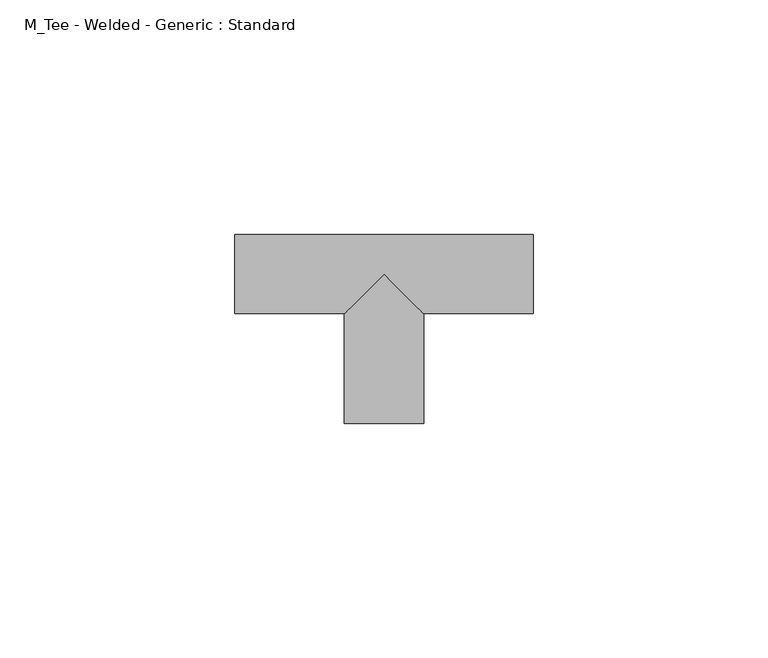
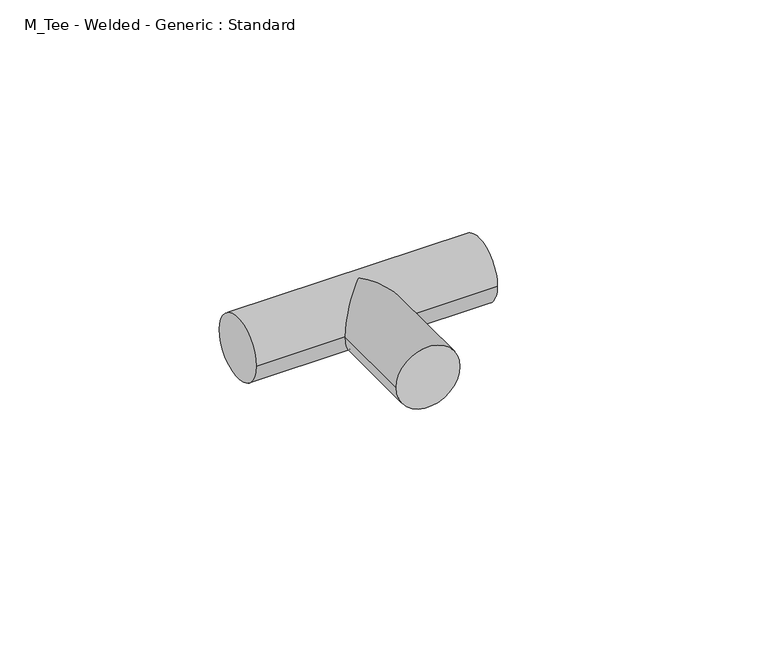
"""IFC4 building model written with IfcOpenShell, lengths in millimetres: pipe fitting geometry, M_Tee - Welded - Generic : Standard."""

import ifcopenshell
import ifcopenshell.guid

model = None  # the IFC model being written
_history = None  # IfcOwnerHistory: only IFC2X3 demands one
_inside = {}  # id of a spatial element -> (the spatial element, [elements in it])
_under = {}  # id of a project, library or spatial element -> (it, [spatial elements below it])
_declared = {}  # id of a project -> (the project, [libraries it declares])
_typed = {}  # id of a type object -> (the type object, [elements of that type])
_made_of = {}  # id of a material, layer set ... -> (it, [elements and type objects made of it])


def new_model(schema):
    """Start an empty IFC model of exactly this schema.

    Asked for "IFC4X3", IfcOpenShell would pick the latest addendum, in which some entities
    have other attributes; the version numbers below select the first issue.
    IFC2X3 requires an IfcOwnerHistory on every rooted entity: one is made here for all.
    """
    global model, _history
    if schema == "IFC4X3":
        model = ifcopenshell.file(schema_version=(4, 3, 0, 0))
    else:
        model = ifcopenshell.file(schema=schema)
    _inside.clear()
    _under.clear()
    _declared.clear()
    _typed.clear()
    _made_of.clear()
    _history = None
    if model.schema == "IFC2X3":
        org = make("IfcOrganization", Name="unknown")
        user = make(
            "IfcPersonAndOrganization",
            ThePerson=make("IfcPerson", FamilyName="unknown"),
            TheOrganization=org,
        )
        app = make(
            "IfcApplication",
            ApplicationDeveloper=org,
            Version="unknown",
            ApplicationFullName="unknown",
            ApplicationIdentifier="unknown",
        )
        _history = make(
            "IfcOwnerHistory",
            OwningUser=user,
            OwningApplication=app,
            ChangeAction="ADDED",
            CreationDate=0,
        )
    return model


def make(cls, **values):
    """One entity of the class cls with the attributes given. An attribute that is None is left unset."""
    return model.create_entity(
        cls, **{name: value for name, value in values.items() if value is not None}
    )


def rooted(cls, **values):
    """An entity with a GlobalId (a new one), such as an element, a storey or a relation."""
    return make(cls, GlobalId=ifcopenshell.guid.new(), OwnerHistory=_history, **values)


def si_unit(unit_type, name, prefix=None):
    """IfcSIUnit, for example si_unit("LENGTHUNIT", "METRE", prefix="MILLI")."""
    return make("IfcSIUnit", UnitType=unit_type, Prefix=prefix, Name=name)


def assignment(units):
    """IfcUnitAssignment: the units of a project."""
    return None if units is None else make("IfcUnitAssignment", Units=units)


def point(xyz):
    """IfcCartesianPoint."""
    return None if xyz is None else make("IfcCartesianPoint", Coordinates=xyz)


def direction(xyz):
    """IfcDirection."""
    return None if xyz is None else make("IfcDirection", DirectionRatios=xyz)


def frame(location, z_axis=None, x_axis=None):
    """IfcAxis2Placement3D, a coordinate frame: its origin and axes. An axis left out is left unset."""
    return make(
        "IfcAxis2Placement3D",
        Location=point(location),
        Axis=direction(z_axis),
        RefDirection=direction(x_axis),
    )


def origin():
    """The frame at (0, 0, 0) with its axes left unset."""
    return frame((0.0, 0.0, 0.0))


def place(relative_to, where):
    """IfcLocalPlacement: puts the frame where relative to a parent placement (None: the world)."""
    return make(
        "IfcLocalPlacement", PlacementRelTo=relative_to, RelativePlacement=where
    )


def context(
    kind, dimensions, precision=None, world=None, true_north=None, identifier=None
):
    """IfcGeometricRepresentationContext, for example the 3D "Model" context."""
    return make(
        "IfcGeometricRepresentationContext",
        ContextIdentifier=identifier,
        ContextType=kind,
        CoordinateSpaceDimension=dimensions,
        Precision=precision,
        WorldCoordinateSystem=world,
        TrueNorth=true_north,
    )


def project(units=None, contexts=None):
    """IfcProject with its units and contexts."""
    return rooted(
        "IfcProject",
        Name="project",
        RepresentationContexts=contexts,
        UnitsInContext=assignment(units),
    )


def spatial(cls, under=None, at=None, **own):
    """A site, building, storey or space (cls), placed at a placement, below another one or the project."""
    s = rooted(cls, ObjectPlacement=at, **own)
    if under is not None:
        _under.setdefault(under.id(), (under, []))[1].append(s)
    return s


def circle_curve(where, radius):
    """IfcCircle in the frame where."""
    return make("IfcCircle", Position=where, Radius=radius)


def ellipse_curve(where, semi_axis1, semi_axis2):
    """IfcEllipse in the frame where."""
    return make(
        "IfcEllipse", Position=where, SemiAxis1=semi_axis1, SemiAxis2=semi_axis2
    )


def shape(context_of_items, identifier, shape_type, items):
    """IfcShapeRepresentation: the items that make up one representation, for example the "Body"."""
    return make(
        "IfcShapeRepresentation",
        ContextOfItems=context_of_items,
        RepresentationIdentifier=identifier,
        RepresentationType=shape_type,
        Items=items,
    )


def source(mapping_origin, context_of_items, identifier, shape_type, items):
    """IfcRepresentationMap: a shape defined once, which mapped items show again and again."""
    return make(
        "IfcRepresentationMap",
        MappingOrigin=mapping_origin,
        MappedRepresentation=shape(context_of_items, identifier, shape_type, items),
    )


def transform(
    local_origin,
    x_axis=None,
    y_axis=None,
    z_axis=None,
    scale=None,
    scale2=None,
    scale3=None,
    uniform=True,
):
    """IfcCartesianTransformationOperator3D, or its non-uniform kind. x_axis, y_axis, z_axis: its Axis1, 2, 3."""
    if uniform:
        return make(
            "IfcCartesianTransformationOperator3D",
            Axis1=direction(x_axis),
            Axis2=direction(y_axis),
            LocalOrigin=point(local_origin),
            Scale=scale,
            Axis3=direction(z_axis),
        )
    return make(
        "IfcCartesianTransformationOperator3DnonUniform",
        Axis1=direction(x_axis),
        Axis2=direction(y_axis),
        LocalOrigin=point(local_origin),
        Scale=scale,
        Axis3=direction(z_axis),
        Scale2=scale2,
        Scale3=scale3,
    )


def mapped(mapping_source, mapping_target):
    """IfcMappedItem: shows the shape of a source again, moved by a transform."""
    return make(
        "IfcMappedItem", MappingSource=mapping_source, MappingTarget=mapping_target
    )


def made_of(thing, what):
    """Note that an element or type object is made of a material, layer set ...; save() writes the relation."""
    if what is not None:
        _made_of.setdefault(what.id(), (what, []))[1].append(thing)
    return thing


def element(
    cls,
    number,
    at=None,
    inside=None,
    cuts=None,
    type_object=None,
    material=None,
    context=None,
    identifier="Body",
    shape_type=None,
    held_by="IfcProductDefinitionShape",
    body=None,
    shapes=None,
    **own,
):
    """One element of the class cls, such as IfcWall. Its Tag is "e" and its number.

    at: its placement. inside: the storey or other place that contains it. cuts: it is an
    opening in that element (IfcRelVoidsElement). A single representation is given by context,
    identifier, shape_type and body (its items); several are given by shapes. held_by: the class
    of the entity that holds the representations. save() writes the other relations.
    """
    e = rooted(cls, Tag="e%d" % number, ObjectPlacement=at, **own)
    if body is not None:
        shapes = [shape(context, identifier, shape_type, body)]
    if shapes is not None:
        e.Representation = make(held_by, Representations=shapes)
    if inside is not None:
        _inside.setdefault(inside.id(), (inside, []))[1].append(e)
    if cuts is not None:
        rooted(
            "IfcRelVoidsElement", RelatingBuildingElement=cuts, RelatedOpeningElement=e
        )
    if type_object is not None:
        _typed.setdefault(type_object.id(), (type_object, []))[1].append(e)
    return made_of(e, material)


def aggregate(whole, parts):
    """IfcRelAggregates: a whole, such as a stair, and the parts it consists of."""
    return rooted("IfcRelAggregates", RelatingObject=whole, RelatedObjects=parts)


def save(model, path):
    """Write the relations noted so far, then the file.

    IfcRelAggregates (storeys below a building ...), IfcRelContainedInSpatialStructure (elements
    in a storey), IfcRelDefinesByType, IfcRelAssociatesMaterial and IfcRelDeclares: one each for
    every whole, place, type object, material and project.
    """
    for whole, parts in _under.values():
        aggregate(whole, parts)
    for where, things in _inside.values():
        rooted(
            "IfcRelContainedInSpatialStructure",
            RelatedElements=things,
            RelatingStructure=where,
        )
    for kind, things in _typed.values():
        rooted("IfcRelDefinesByType", RelatedObjects=things, RelatingType=kind)
    for what, things in _made_of.values():
        rooted("IfcRelAssociatesMaterial", RelatedObjects=things, RelatingMaterial=what)
    for by, libraries in _declared.values():
        rooted("IfcRelDeclares", RelatingContext=by, RelatedDefinitions=libraries)
    model.write(path)


def plane_surface(at):
    """IfcPlane: the flat surface through the origin of the frame at, square to its z axis."""
    return make("IfcPlane", Position=at)


def cylinder_surface(at, radius):
    """IfcCylindricalSurface: all points at the distance radius from the z axis of the frame at."""
    return make("IfcCylindricalSurface", Position=at, Radius=radius)


def advanced_brep(points, edges, surfaces, faces):
    """IfcAdvancedBrep: a solid bounded by faces that lie on surfaces and meet in shared edges.

    An edge is (start, end): straight between two places in points (the first is 0);
    or (start, end, curve); or (start, end, curve, False) where it runs against its curve.
    A face is (place in surfaces, loops), or (place, loops, False) where it looks against
    its surface's normal. A loop lists edges by number (the first is 1), with a minus sign
    where the edge is run from its end to its start. The first loop is the outer one.
    """
    corners = [point(p) for p in points]
    vertices = [make("IfcVertexPoint", VertexGeometry=c) for c in corners]
    made = []
    for start, end, *more in edges:
        made.append(
            make(
                "IfcEdgeCurve",
                EdgeStart=vertices[start],
                EdgeEnd=vertices[end],
                EdgeGeometry=more[0] if more else make("IfcPolyline", Points=[corners[start], corners[end]]),
                SameSense=more[1] if len(more) > 1 else True,
            )
        )
    hull = []
    for where, loops, *sense in faces:
        bounds = []
        for j, loop in enumerate(loops):
            ring = [make("IfcOrientedEdge", EdgeElement=made[abs(k) - 1], Orientation=k > 0) for k in loop]
            bounds.append(
                make(
                    "IfcFaceOuterBound" if j == 0 else "IfcFaceBound",
                    Bound=make("IfcEdgeLoop", EdgeList=ring),
                    Orientation=True,
                )
            )
        hull.append(make("IfcAdvancedFace", Bounds=bounds, FaceSurface=surfaces[where], SameSense=sense[0] if sense else True))
    return make("IfcAdvancedBrep", Outer=make("IfcClosedShell", CfsFaces=hull))


def m_tee_welded_generic_standard_757b4df2(model_context):
    return source(origin(), model_context, "Body", "AdvancedBrep", [
        advanced_brep(
        [(-31.7299375, -8.4089844, 0.0), (-31.7299375, 8.4089844, 0.0), (31.7299375, -8.4089844, 0.0), (31.7299375, 8.4089844, 0.0), (-8.4089844, -8.4089844, 0.0), (0.0, 0.0, 8.4089844), (8.4089844, -8.4089844, 0.0), (0.0, 0.0, -8.4089844), (-8.4089844, -31.7299375, 0.0), (8.4089844, -31.7299375, 0.0)],
        [
            (0, 1, circle_curve(frame((-31.7299375, 0.0, 0.0), z_axis=(-1.0, 0.0, 0.0), x_axis=(0.0, 1.0, 0.0)), 8.4089844)),
            (1, 0, circle_curve(frame((-31.7299375, 0.0, 0.0), z_axis=(-1.0, 0.0, 0.0), x_axis=(0.0, 1.0, 0.0)), 8.4089844)),
            (2, 3, circle_curve(frame((31.7299375, 0.0, 0.0), z_axis=(1.0, 0.0, 0.0), x_axis=(0.0, 1.0, 0.0)), 8.4089844)),
            (3, 2, circle_curve(frame((31.7299375, 0.0, 0.0), z_axis=(1.0, 0.0, 0.0), x_axis=(0.0, 1.0, 0.0)), 8.4089844)),
            (0, 4),
            (4, 5, ellipse_curve(frame((0.0, 0.0, 0.0), z_axis=(-0.707106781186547, 0.7071067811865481, 0.0), x_axis=(-0.707106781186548, -0.707106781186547, 0.0)), 11.8920997, 8.4089844)),
            (5, 6, ellipse_curve(frame((0.0, 0.0, 0.0), z_axis=(0.707106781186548, 0.7071067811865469, 0.0), x_axis=(-0.707106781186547, 0.707106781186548, 0.0)), 11.8920997, 8.4089844)),
            (6, 2),
            (3, 1),
            (6, 7, ellipse_curve(frame((0.0, 0.0, 0.0), z_axis=(0.707106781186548, 0.7071067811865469, 0.0), x_axis=(-0.707106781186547, 0.707106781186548, 0.0)), 11.8920997, 8.4089844)),
            (7, 4, ellipse_curve(frame((0.0, 0.0, 0.0), z_axis=(-0.707106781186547, 0.7071067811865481, 0.0), x_axis=(-0.707106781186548, -0.707106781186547, 0.0)), 11.8920997, 8.4089844)),
            (8, 9, circle_curve(frame((0.0, -31.7299375, 0.0), z_axis=(0.0, -1.0, 0.0), x_axis=(1.0, 0.0, 0.0)), 8.4089844)),
            (9, 8, circle_curve(frame((0.0, -31.7299375, 0.0), z_axis=(0.0, -1.0, 0.0), x_axis=(1.0, 0.0, 0.0)), 8.4089844)),
            (9, 6),
            (4, 8),
        ],
        [
            plane_surface(frame((-31.7299375, 0.0, 0.0), z_axis=(-1.0, 0.0, 0.0), x_axis=(0.0, 0.0, 1.0))),
            plane_surface(frame((31.7299375, 0.0, 0.0), z_axis=(1.0, 0.0, 0.0), x_axis=(0.0, 0.0, 1.0))),
            cylinder_surface(frame((-31.7299375, 0.0, 0.0), z_axis=(-1.0, 0.0, 0.0), x_axis=(0.0, 1.0, 0.0)), 8.4089844),
            plane_surface(frame((0.0, -31.7299375, 0.0), z_axis=(0.0, -1.0, 0.0), x_axis=(0.0, 0.0, 1.0))),
            cylinder_surface(frame((0.0, 0.0, 0.0), z_axis=(0.0, 1.0, 0.0), x_axis=(1.0, 0.0, 0.0)), 8.4089844),
        ],
        [
            (0, [[1, 2]]),
            (1, [[3, 4]]),
            (2, [[-1, 5, 6, 7, 8, -4, 9]]),
            (2, [[-2, -9, -3, -8, 10, 11, -5]]),
            (3, [[12, 13]]),
            (4, [[-13, 14, -7, -6, 15]]),
            (4, [[-12, -15, -11, -10, -14]]),
        ],
    ),
    ])


if __name__ == "__main__":
    model = new_model("IFC4")
    model_context = context("Model", 3, world=origin())
    ifc_project = project(units=[si_unit("LENGTHUNIT", "METRE", prefix="MILLI")], contexts=[model_context])
    site = spatial("IfcSite", under=ifc_project)
    building = spatial("IfcBuilding", under=site)
    placement = place(None, origin())
    m_tee_welded_generic_standard_shape = m_tee_welded_generic_standard_757b4df2(model_context)
    element("IfcPipeFitting", 1, ObjectType="M_Tee - Welded - Generic : Standard", at=placement, inside=building, context=model_context, shape_type="MappedRepresentation", body=[
        mapped(m_tee_welded_generic_standard_shape, transform((0.0, 0.0, 0.0), x_axis=(1.0, 0.0, 0.0), y_axis=(0.0, 1.0, 0.0), z_axis=(0.0, 0.0, 1.0))),
    ])
    save(model, "model.ifc")
